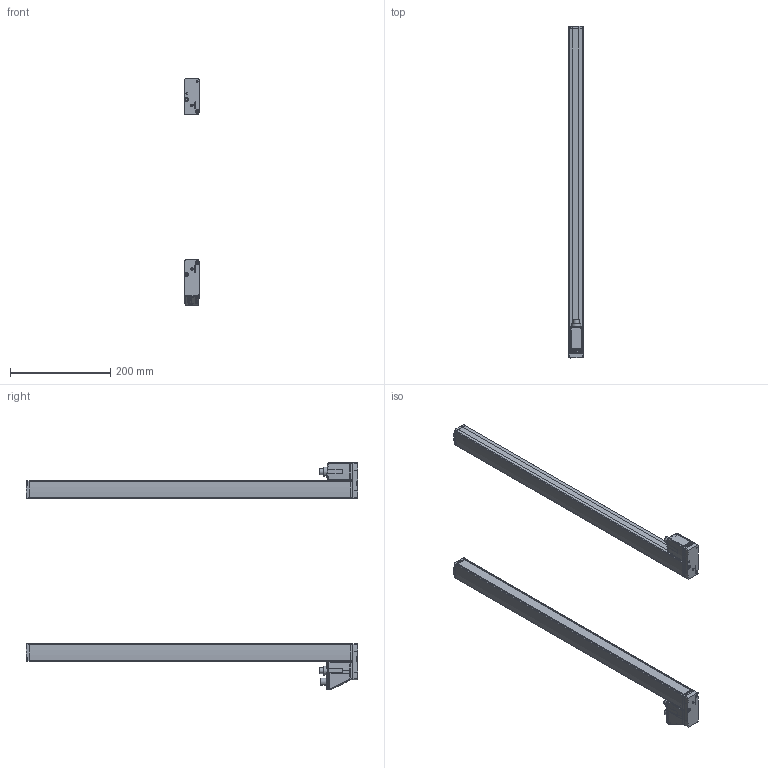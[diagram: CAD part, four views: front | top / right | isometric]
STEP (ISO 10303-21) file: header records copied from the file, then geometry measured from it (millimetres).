
FILE_DESCRIPTION(/* description */ (''),/* implementation_level */ '2;1');
FILE_NAME(/* name */ '3D_CML_700_640_R.stp',/* time_stamp */ '2013-03-06T12:26:28+01:00',/* author */ (''),/* organization */ (''),/* preprocessor_version */ 'ST-DEVELOPER v11',/* originating_system */ 'SIEMENS UGS NX 6.0',/* authorisation */ '');
FILE_SCHEMA (('AUTOMOTIVE_DESIGN { 1 0 10303 214 1 1 1 1 }'));
Length unit declared in the file: millimetre
Products named in the file (10): M12-X_A; 002491_00.0; 001890_B; 002487_00.0; 002486_00.0; 002485_00.0; 002501_00.0_MODEL; 002492_00.1; 002484_00.1_MODEL; 002489_20.0
Assembly tree (10 placements, depth 4):
  002489_20.0
    002484_00.1_MODEL
      002485_00.0
      002486_00.0
      002487_00.0
      001890_B
    002492_00.1
      002485_00.0
      002491_00.0
      002501_00.0_MODEL
        M12-X_A
Bounding box: 29.39 x 663.2 x 453.44 mm (x, y, z)
Volume: 1235392.4 mm3; surface area: 268377 mm2
Topology: 9 solids, 18 shells, 4040 faces, 10974 edges, 7006 vertices
Faces by surface type: plane 1996, cylinder 943, bspline 428, cone 260, torus 156, revolution 121, extrusion 87, sphere 49
Full cylindrical faces by diameter (mm): 0.4 x1, 0.75 x1, 0.85 x1, 1 x11, 1.25 x7, 1.4 x1, 2 x4, 2.5 x1, 2.6 x13, 3.2 x4, 3.3 x1, 3.5 x10, 3.7 x2, 4 x7, 4.2 x3, 6 x2, 6.7 x8, 7 x5, 8 x1, 8.6 x2, 9.3 x2, 10 x1, 10.11 x1, 12 x2, 13.98 x1, 15.6 x1, 18 x2
Entity records: 206107 total; most frequent: CARTESIAN_POINT 102243, ORIENTED_EDGE 20910, DIRECTION 18712, EDGE_CURVE 10455, VERTEX_POINT 6800, AXIS2_PLACEMENT_3D 6322, VECTOR 5947, LINE 5860
